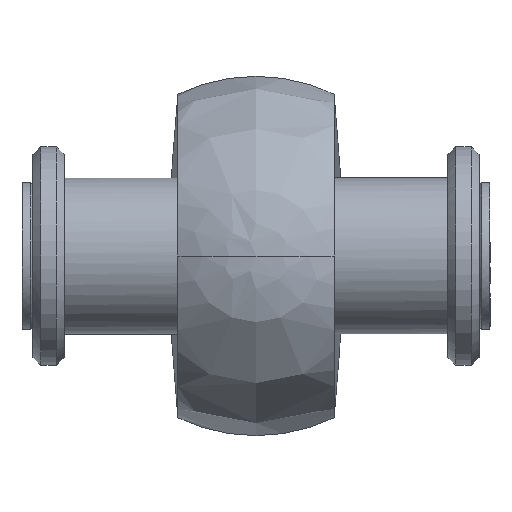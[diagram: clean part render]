
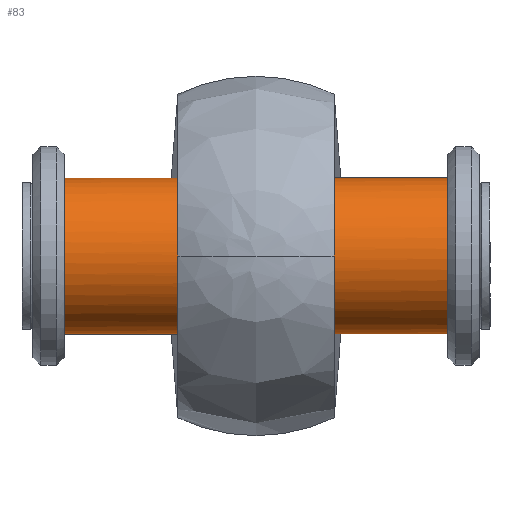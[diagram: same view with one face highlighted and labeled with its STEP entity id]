
A CAD part, left-side view. The second image highlights one B-rep face of the part: STEP entity #83.
In plain terms, the highlighted cylindrical face has radius 5 mm (diameter 10 mm), a full revolution.
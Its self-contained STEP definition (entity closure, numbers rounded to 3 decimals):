
#83=ADVANCED_FACE('',(#157),#1214,.T.);
#157=FACE_OUTER_BOUND('',#238,.T.);
#238=EDGE_LOOP('',(#506,#507,#508,#509));
#506=ORIENTED_EDGE('',*,*,#774,.T.);
#507=ORIENTED_EDGE('',*,*,#776,.T.);
#508=ORIENTED_EDGE('',*,*,#775,.T.);
#509=ORIENTED_EDGE('',*,*,#776,.F.);
#774=EDGE_CURVE('',#1128,#1128,#983,.T.);
#775=EDGE_CURVE('',#1129,#1129,#984,.T.);
#776=EDGE_CURVE('',#1128,#1129,#897,.T.);
#897=B_SPLINE_CURVE_WITH_KNOTS('',1,(#2248,#2249),.UNSPECIFIED.,.F.,.F.,
(2,2),(2.576,27.134),.UNSPECIFIED.);
#983=(
BOUNDED_CURVE()
B_SPLINE_CURVE(2,(#2230,#2231,#2232,#2233,#2234,#2235,#2236,#2237,#2238),
 .UNSPECIFIED.,.T.,.F.)
B_SPLINE_CURVE_WITH_KNOTS((3,2,2,2,3),(0.,7.854,15.708,
23.562,31.416),.UNSPECIFIED.)
CURVE()
GEOMETRIC_REPRESENTATION_ITEM()
RATIONAL_B_SPLINE_CURVE((1.,0.707,1.,0.707,1.,0.707,
1.,0.707,1.))
REPRESENTATION_ITEM('')
);
#984=(
BOUNDED_CURVE()
B_SPLINE_CURVE(2,(#2239,#2240,#2241,#2242,#2243,#2244,#2245,#2246,#2247),
 .UNSPECIFIED.,.T.,.F.)
B_SPLINE_CURVE_WITH_KNOTS((3,2,2,2,3),(0.,7.854,15.708,
23.562,31.416),.UNSPECIFIED.)
CURVE()
GEOMETRIC_REPRESENTATION_ITEM()
RATIONAL_B_SPLINE_CURVE((1.,0.707,1.,0.707,1.,0.707,
1.,0.707,1.))
REPRESENTATION_ITEM('')
);
#1128=VERTEX_POINT('',#2182);
#1129=VERTEX_POINT('',#2183);
#1214=CYLINDRICAL_SURFACE('',#1366,5.);
#1366=AXIS2_PLACEMENT_3D('',#2172,#1412,$);
#1412=DIRECTION('',(0.,-1.,0.));
#2172=CARTESIAN_POINT('',(0.,0.,0.));
#2182=CARTESIAN_POINT('',(5.,12.279,0.));
#2183=CARTESIAN_POINT('',(5.,-12.279,0.));
#2230=CARTESIAN_POINT('',(5.,12.279,0.));
#2231=CARTESIAN_POINT('',(5.,12.279,5.));
#2232=CARTESIAN_POINT('',(0.,12.279,5.));
#2233=CARTESIAN_POINT('',(-5.,12.279,5.));
#2234=CARTESIAN_POINT('',(-5.,12.279,0.));
#2235=CARTESIAN_POINT('',(-5.,12.279,-5.));
#2236=CARTESIAN_POINT('',(0.,12.279,-5.));
#2237=CARTESIAN_POINT('',(5.,12.279,-5.));
#2238=CARTESIAN_POINT('',(5.,12.279,0.));
#2239=CARTESIAN_POINT('',(5.,-12.279,0.));
#2240=CARTESIAN_POINT('',(5.,-12.279,-5.));
#2241=CARTESIAN_POINT('',(0.,-12.279,-5.));
#2242=CARTESIAN_POINT('',(-5.,-12.279,-5.));
#2243=CARTESIAN_POINT('',(-5.,-12.279,0.));
#2244=CARTESIAN_POINT('',(-5.,-12.279,5.));
#2245=CARTESIAN_POINT('',(0.,-12.279,5.));
#2246=CARTESIAN_POINT('',(5.,-12.279,5.));
#2247=CARTESIAN_POINT('',(5.,-12.279,0.));
#2248=CARTESIAN_POINT('',(5.,12.279,0.));
#2249=CARTESIAN_POINT('',(5.,-12.279,0.));
